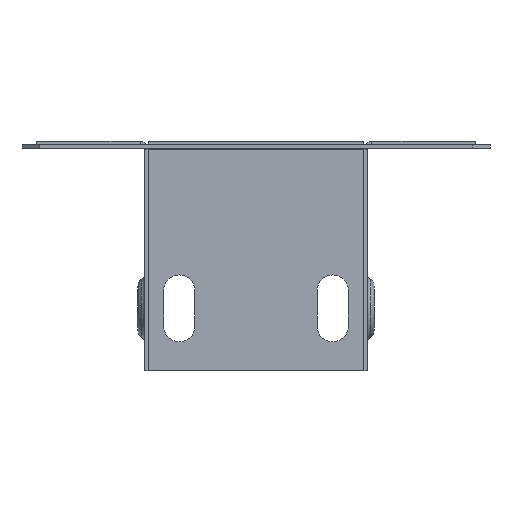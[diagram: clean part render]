
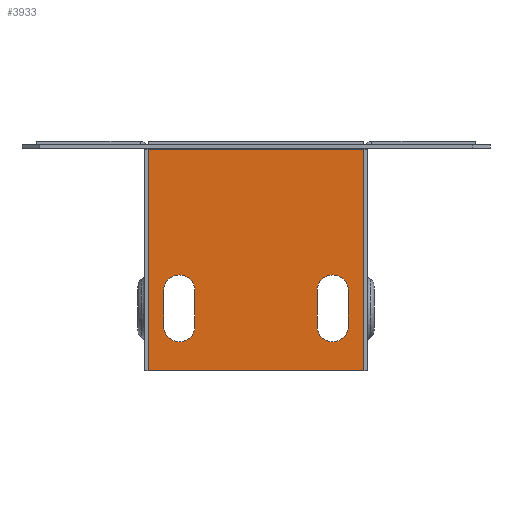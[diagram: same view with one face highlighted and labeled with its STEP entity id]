
A CAD part, left-side view. The second image highlights one B-rep face of the part: STEP entity #3933.
In plain terms, the highlighted planar face has unit normal (-1, 0, 0) as drawn and (0, 1, 0) by its records, which use the part's own axes.
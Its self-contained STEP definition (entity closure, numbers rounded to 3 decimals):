
#15 = DIRECTION ( 'NONE',  ( 0., 0., 1. ) ) ;
#37 = VERTEX_POINT ( 'NONE', #2075 ) ;
#72 = DIRECTION ( 'NONE',  ( 0., 0., 1. ) ) ;
#82 = LINE ( 'NONE', #2960, #4093 ) ;
#143 = CARTESIAN_POINT ( 'NONE',  ( -24.2, 0.8, 1.8 ) ) ;
#160 = CARTESIAN_POINT ( 'NONE',  ( 20.7, 0.8, 41.5 ) ) ;
#321 = EDGE_CURVE ( 'NONE', #3519, #37, #798, .T. ) ;
#327 = CARTESIAN_POINT ( 'NONE',  ( 24.2, 0.8, 51.5 ) ) ;
#365 = DIRECTION ( 'NONE',  ( 0., 0., 1. ) ) ;
#408 = EDGE_CURVE ( 'NONE', #1471, #1845, #1771, .T. ) ;
#483 = DIRECTION ( 'NONE',  ( 0., 0., 1. ) ) ;
#492 = CARTESIAN_POINT ( 'NONE',  ( -20.7, 0.8, 41.5 ) ) ;
#554 = DIRECTION ( 'NONE',  ( 0., 0., -1. ) ) ;
#612 = CARTESIAN_POINT ( 'NONE',  ( -20.7, 0.8, 41.5 ) ) ;
#756 = EDGE_CURVE ( 'NONE', #5329, #3369, #3642, .T. ) ;
#787 = AXIS2_PLACEMENT_3D ( 'NONE', #5820, #2909, #15 ) ;
#798 = LINE ( 'NONE', #1454, #1928 ) ;
#803 = CARTESIAN_POINT ( 'NONE',  ( -13.7, 0.8, 41.5 ) ) ;
#879 = CARTESIAN_POINT ( 'NONE',  ( 24.2, 0.8, 51.5 ) ) ;
#915 = LINE ( 'NONE', #4013, #2047 ) ;
#989 = DIRECTION ( 'NONE',  ( 0., 0., -1. ) ) ;
#1280 = EDGE_LOOP ( 'NONE', ( #1552, #1393, #4367, #4660, #2771 ) ) ;
#1290 = EDGE_CURVE ( 'NONE', #1845, #5552, #2531, .T. ) ;
#1338 = CARTESIAN_POINT ( 'NONE',  ( -13.7, 0.8, 41.5 ) ) ;
#1348 = ORIENTED_EDGE ( 'NONE', *, *, #321, .T. ) ;
#1393 = ORIENTED_EDGE ( 'NONE', *, *, #1290, .T. ) ;
#1424 = DIRECTION ( 'NONE',  ( 0., -1., 0. ) ) ;
#1454 = CARTESIAN_POINT ( 'NONE',  ( -24.2, 0.8, 0. ) ) ;
#1471 = VERTEX_POINT ( 'NONE', #1338 ) ;
#1538 = EDGE_CURVE ( 'NONE', #5015, #3715, #3882, .T. ) ;
#1552 = ORIENTED_EDGE ( 'NONE', *, *, #408, .T. ) ;
#1732 = DIRECTION ( 'NONE',  ( 0., 1., 0. ) ) ;
#1735 = CARTESIAN_POINT ( 'NONE',  ( 24.2, 0.8, 1.8 ) ) ;
#1746 = LINE ( 'NONE', #803, #4179 ) ;
#1765 = AXIS2_PLACEMENT_3D ( 'NONE', #1982, #5373, #2472 ) ;
#1771 = CIRCLE ( 'NONE', #1765, 3.5 ) ;
#1773 = EDGE_LOOP ( 'NONE', ( #2221, #4904, #3420, #5482, #3812 ) ) ;
#1845 = VERTEX_POINT ( 'NONE', #5476 ) ;
#1928 = VECTOR ( 'NONE', #483, 1000. ) ;
#1965 = DIRECTION ( 'NONE',  ( 0., 1., 0. ) ) ;
#1982 = CARTESIAN_POINT ( 'NONE',  ( -17.2, 0.8, 41.5 ) ) ;
#2047 = VECTOR ( 'NONE', #5960, 1000. ) ;
#2075 = CARTESIAN_POINT ( 'NONE',  ( -24.2, 0.8, 51.5 ) ) ;
#2117 = FACE_OUTER_BOUND ( 'NONE', #5254, .T. ) ;
#2118 = CARTESIAN_POINT ( 'NONE',  ( 24.2, 0.8, 1.8 ) ) ;
#2132 = EDGE_CURVE ( 'NONE', #5552, #4189, #5853, .T. ) ;
#2168 = VERTEX_POINT ( 'NONE', #4848 ) ;
#2221 = ORIENTED_EDGE ( 'NONE', *, *, #3556, .F. ) ;
#2399 = EDGE_CURVE ( 'NONE', #5015, #3519, #6222, .T. ) ;
#2472 = DIRECTION ( 'NONE',  ( 0., 0., 1. ) ) ;
#2505 = CARTESIAN_POINT ( 'NONE',  ( -13.7, 0.8, 33.5 ) ) ;
#2521 = EDGE_CURVE ( 'NONE', #5968, #1471, #1746, .T. ) ;
#2531 = CIRCLE ( 'NONE', #3883, 3.5 ) ;
#2624 = AXIS2_PLACEMENT_3D ( 'NONE', #4626, #1732, #5116 ) ;
#2633 = CIRCLE ( 'NONE', #3212, 3.5 ) ;
#2739 = VECTOR ( 'NONE', #6061, 1000. ) ;
#2771 = ORIENTED_EDGE ( 'NONE', *, *, #2521, .T. ) ;
#2909 = DIRECTION ( 'NONE',  ( 0., 1., 0. ) ) ;
#2956 = CARTESIAN_POINT ( 'NONE',  ( 24.2, 0.8, 0. ) ) ;
#2960 = CARTESIAN_POINT ( 'NONE',  ( 13.7, 0.8, 41.5 ) ) ;
#3085 = FACE_BOUND ( 'NONE', #1773, .T. ) ;
#3158 = CARTESIAN_POINT ( 'NONE',  ( 24.2, 0.8, 0. ) ) ;
#3189 = DIRECTION ( 'NONE',  ( 0., 0., 1. ) ) ;
#3212 = AXIS2_PLACEMENT_3D ( 'NONE', #4864, #1965, #5356 ) ;
#3241 = DIRECTION ( 'NONE',  ( 0., -1., 0. ) ) ;
#3256 = VECTOR ( 'NONE', #989, 1000. ) ;
#3288 = ORIENTED_EDGE ( 'NONE', *, *, #2399, .T. ) ;
#3369 = VERTEX_POINT ( 'NONE', #3380 ) ;
#3380 = CARTESIAN_POINT ( 'NONE',  ( 13.7, 0.8, 33.5 ) ) ;
#3420 = ORIENTED_EDGE ( 'NONE', *, *, #5397, .F. ) ;
#3432 = DIRECTION ( 'NONE',  ( 0., -1., 0. ) ) ;
#3519 = VERTEX_POINT ( 'NONE', #143 ) ;
#3556 = EDGE_CURVE ( 'NONE', #6083, #5329, #915, .T. ) ;
#3616 = EDGE_CURVE ( 'NONE', #4189, #5968, #4467, .T. ) ;
#3642 = CIRCLE ( 'NONE', #2624, 3.5 ) ;
#3705 = VECTOR ( 'NONE', #3713, 1000. ) ;
#3713 = DIRECTION ( 'NONE',  ( -1., 0., 0. ) ) ;
#3715 = VERTEX_POINT ( 'NONE', #879 ) ;
#3785 = CIRCLE ( 'NONE', #787, 3.5 ) ;
#3812 = ORIENTED_EDGE ( 'NONE', *, *, #756, .F. ) ;
#3882 = LINE ( 'NONE', #3158, #2739 ) ;
#3883 = AXIS2_PLACEMENT_3D ( 'NONE', #4801, #1424, #4325 ) ;
#3933 = ADVANCED_FACE ( 'NONE', ( #2117, #3085, #5668 ), #5383, .F. ) ;
#4013 = CARTESIAN_POINT ( 'NONE',  ( 20.7, 0.8, 41.5 ) ) ;
#4093 = VECTOR ( 'NONE', #72, 1000. ) ;
#4179 = VECTOR ( 'NONE', #3189, 1000. ) ;
#4189 = VERTEX_POINT ( 'NONE', #5047 ) ;
#4251 = CARTESIAN_POINT ( 'NONE',  ( 20.7, 0.8, 33.5 ) ) ;
#4296 = VERTEX_POINT ( 'NONE', #5108 ) ;
#4325 = DIRECTION ( 'NONE',  ( 0., 0., 1. ) ) ;
#4367 = ORIENTED_EDGE ( 'NONE', *, *, #2132, .T. ) ;
#4467 = CIRCLE ( 'NONE', #5865, 3.5 ) ;
#4555 = EDGE_CURVE ( 'NONE', #4296, #6083, #2633, .T. ) ;
#4626 = CARTESIAN_POINT ( 'NONE',  ( 17.2, 0.8, 33.5 ) ) ;
#4660 = ORIENTED_EDGE ( 'NONE', *, *, #3616, .T. ) ;
#4801 = CARTESIAN_POINT ( 'NONE',  ( -17.2, 0.8, 41.5 ) ) ;
#4848 = CARTESIAN_POINT ( 'NONE',  ( 13.7, 0.8, 41.5 ) ) ;
#4864 = CARTESIAN_POINT ( 'NONE',  ( 17.2, 0.8, 41.5 ) ) ;
#4904 = ORIENTED_EDGE ( 'NONE', *, *, #4555, .F. ) ;
#5005 = LINE ( 'NONE', #327, #3705 ) ;
#5015 = VERTEX_POINT ( 'NONE', #1735 ) ;
#5047 = CARTESIAN_POINT ( 'NONE',  ( -20.7, 0.8, 33.5 ) ) ;
#5080 = AXIS2_PLACEMENT_3D ( 'NONE', #2956, #3432, #554 ) ;
#5104 = ORIENTED_EDGE ( 'NONE', *, *, #5122, .F. ) ;
#5108 = CARTESIAN_POINT ( 'NONE',  ( 17.2, 0.8, 45. ) ) ;
#5116 = DIRECTION ( 'NONE',  ( 0., 0., 1. ) ) ;
#5122 = EDGE_CURVE ( 'NONE', #3715, #37, #5005, .T. ) ;
#5184 = ORIENTED_EDGE ( 'NONE', *, *, #1538, .F. ) ;
#5254 = EDGE_LOOP ( 'NONE', ( #1348, #5104, #5184, #3288 ) ) ;
#5329 = VERTEX_POINT ( 'NONE', #4251 ) ;
#5356 = DIRECTION ( 'NONE',  ( 0., 0., 1. ) ) ;
#5373 = DIRECTION ( 'NONE',  ( 0., -1., 0. ) ) ;
#5383 = PLANE ( 'NONE',  #5080 ) ;
#5397 = EDGE_CURVE ( 'NONE', #2168, #4296, #3785, .T. ) ;
#5476 = CARTESIAN_POINT ( 'NONE',  ( -17.2, 0.8, 45. ) ) ;
#5482 = ORIENTED_EDGE ( 'NONE', *, *, #5924, .F. ) ;
#5508 = DIRECTION ( 'NONE',  ( -1., 0., 0. ) ) ;
#5552 = VERTEX_POINT ( 'NONE', #612 ) ;
#5668 = FACE_BOUND ( 'NONE', #1280, .T. ) ;
#5820 = CARTESIAN_POINT ( 'NONE',  ( 17.2, 0.8, 41.5 ) ) ;
#5853 = LINE ( 'NONE', #492, #3256 ) ;
#5865 = AXIS2_PLACEMENT_3D ( 'NONE', #6148, #3241, #365 ) ;
#5924 = EDGE_CURVE ( 'NONE', #3369, #2168, #82, .T. ) ;
#5960 = DIRECTION ( 'NONE',  ( 0., 0., -1. ) ) ;
#5968 = VERTEX_POINT ( 'NONE', #2505 ) ;
#6061 = DIRECTION ( 'NONE',  ( 0., 0., 1. ) ) ;
#6062 = VECTOR ( 'NONE', #5508, 1000. ) ;
#6083 = VERTEX_POINT ( 'NONE', #160 ) ;
#6148 = CARTESIAN_POINT ( 'NONE',  ( -17.2, 0.8, 33.5 ) ) ;
#6222 = LINE ( 'NONE', #2118, #6062 ) ;
